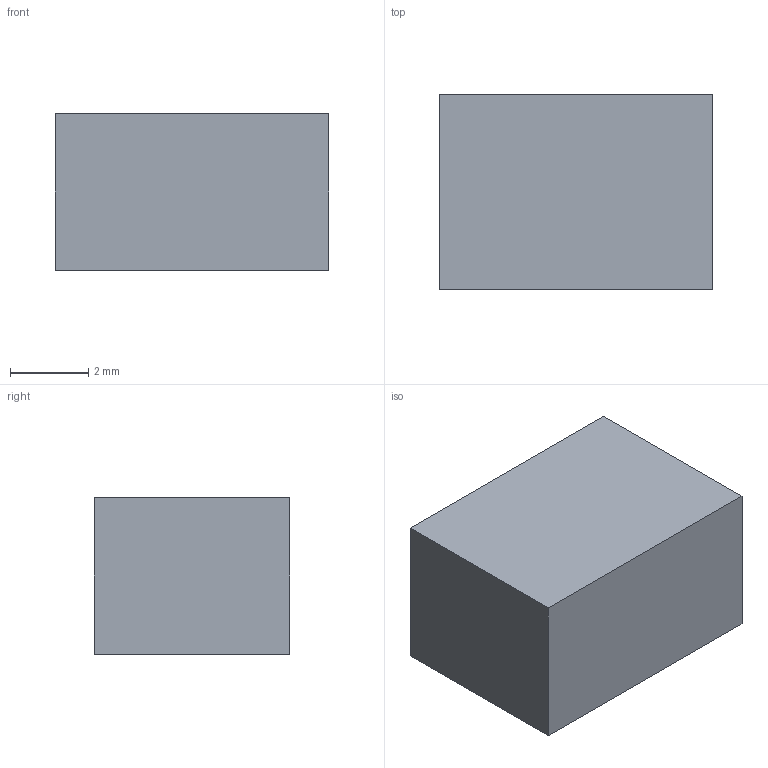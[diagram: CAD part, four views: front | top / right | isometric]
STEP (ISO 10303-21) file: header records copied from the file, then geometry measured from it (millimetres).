
FILE_DESCRIPTION(('Open CASCADE Model'),'2;1');
FILE_NAME('Open CASCADE Shape Model','2026-11-20T22:44:44',('Author'),( 'Open CASCADE'),'Open CASCADE STEP processor 7.8','Open CASCADE 7.8' ,'Unknown');
FILE_SCHEMA(('AUTOMOTIVE_DESIGN { 1 0 10303 214 1 1 1 1 }'));
Length unit declared in the file: millimetre
Products named in the file (1): Open CASCADE STEP translator 7.8 17
Bounding box: 7 x 5 x 4 mm (x, y, z)
Volume: 140 mm3; surface area: 166 mm2
Topology: 1 solids, 1 shells, 6 faces, 12 edges, 8 vertices
Faces by surface type: plane 6
Entity records: 322 total; most frequent: CARTESIAN_POINT 51, DIRECTION 50, LINE 36, VECTOR 36, ORIENTED_EDGE 24, PCURVE 24, DEFINITIONAL_REPRESENTATION 24, EDGE_CURVE 12
